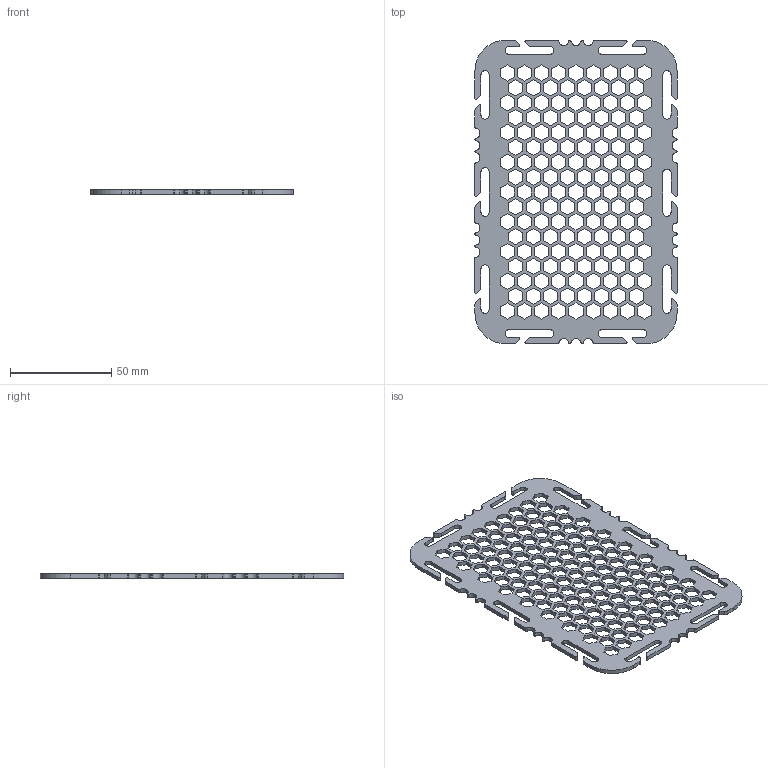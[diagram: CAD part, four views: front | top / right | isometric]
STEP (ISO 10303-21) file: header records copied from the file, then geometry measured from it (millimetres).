
FILE_DESCRIPTION (( 'STEP AP214' ), '1' );
FILE_NAME ('Rigid MOLLE Panel for custom organization_HEX.STEP', '2025-06-04T15:28:19', ( '' ), ( '' ), 'SwSTEP 2.0', 'SolidWorks 2023', '' );
FILE_SCHEMA (( 'AUTOMOTIVE_DESIGN' ));
Length unit declared in the file: millimetre
Products named in the file (1): Rigid MOLLE Panel for custom organization_HEX
Bounding box: 100 x 150 x 2 mm (x, y, z)
Volume: 15100 mm3; surface area: 24104.3 mm2
Topology: 1 solids, 1 shells, 1087 faces, 3255 edges, 2170 vertices
Faces by surface type: plane 954, cylinder 133
Entity records: 36698 total; most frequent: CARTESIAN_POINT 6513, ORIENTED_EDGE 6510, DIRECTION 5697, EDGE_CURVE 3255, VECTOR 2989, LINE 2989, VERTEX_POINT 2170, EDGE_LOOP 1377
